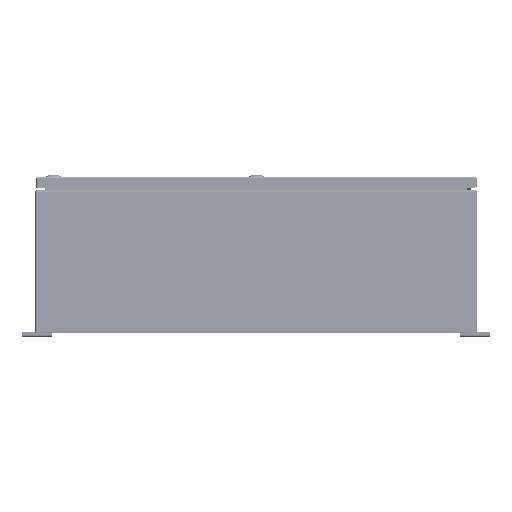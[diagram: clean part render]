
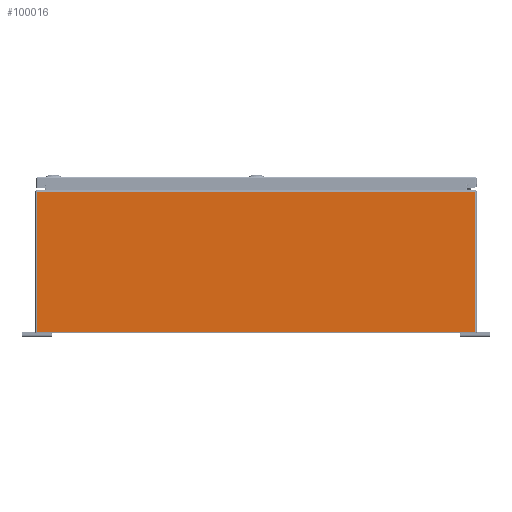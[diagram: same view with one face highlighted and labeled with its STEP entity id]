
A CAD part, left-side view. The second image highlights one B-rep face of the part: STEP entity #100016.
In plain terms, the highlighted planar face has unit normal (-1, 0, 0).
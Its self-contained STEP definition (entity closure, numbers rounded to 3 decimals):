
#6045=PLANE('',#107147);
#8587=LINE('',#141303,#16530);
#8588=LINE('',#141307,#16531);
#8589=LINE('',#141309,#16532);
#8590=LINE('',#141311,#16533);
#8591=LINE('',#141313,#16534);
#8592=LINE('',#141314,#16535);
#16530=VECTOR('',#115979,0.394);
#16531=VECTOR('',#115984,0.394);
#16532=VECTOR('',#115985,0.394);
#16533=VECTOR('',#115986,0.394);
#16534=VECTOR('',#115987,0.394);
#16535=VECTOR('',#115988,0.394);
#26042=FACE_OUTER_BOUND('',#31959,.T.);
#31959=EDGE_LOOP('',(#67772,#67773,#67774,#67775,#67776,#67777));
#42073=VERTEX_POINT('',#141285);
#42080=VERTEX_POINT('',#141302);
#42081=VERTEX_POINT('',#141306);
#42082=VERTEX_POINT('',#141308);
#42083=VERTEX_POINT('',#141310);
#42084=VERTEX_POINT('',#141312);
#52111=EDGE_CURVE('',#42073,#42080,#8587,.T.);
#52113=EDGE_CURVE('',#42081,#42073,#8588,.T.);
#52114=EDGE_CURVE('',#42081,#42082,#8589,.T.);
#52115=EDGE_CURVE('',#42083,#42082,#8590,.T.);
#52116=EDGE_CURVE('',#42084,#42083,#8591,.T.);
#52117=EDGE_CURVE('',#42084,#42080,#8592,.T.);
#67772=ORIENTED_EDGE('',*,*,#52113,.F.);
#67773=ORIENTED_EDGE('',*,*,#52114,.T.);
#67774=ORIENTED_EDGE('',*,*,#52115,.F.);
#67775=ORIENTED_EDGE('',*,*,#52116,.F.);
#67776=ORIENTED_EDGE('',*,*,#52117,.T.);
#67777=ORIENTED_EDGE('',*,*,#52111,.F.);
#100016=ADVANCED_FACE('',(#26042),#6045,.F.);
#107147=AXIS2_PLACEMENT_3D('',#141305,#115982,#115983);
#115979=DIRECTION('',(0.,0.,-1.));
#115982=DIRECTION('center_axis',(1.,0.,0.));
#115983=DIRECTION('ref_axis',(0.,0.,-1.));
#115984=DIRECTION('',(0.,-1.,0.));
#115985=DIRECTION('',(0.,1.,0.));
#115986=DIRECTION('',(0.,-1.,0.));
#115987=DIRECTION('',(0.,0.,1.));
#115988=DIRECTION('',(0.,-1.,0.));
#141285=CARTESIAN_POINT('',(-21.,-18.401,11.901));
#141302=CARTESIAN_POINT('',(-21.,-18.401,0.099));
#141303=CARTESIAN_POINT('',(-21.,-18.401,6.));
#141305=CARTESIAN_POINT('Origin',(-21.,0.,6.));
#141306=CARTESIAN_POINT('',(-21.,-17.626,11.901));
#141307=CARTESIAN_POINT('',(-21.,-9.225,11.901));
#141308=CARTESIAN_POINT('',(-21.,17.626,11.901));
#141309=CARTESIAN_POINT('',(-21.,9.205,11.901));
#141310=CARTESIAN_POINT('',(-21.,18.401,11.901));
#141311=CARTESIAN_POINT('',(-21.,-9.225,11.901));
#141312=CARTESIAN_POINT('',(-21.,18.401,0.099));
#141313=CARTESIAN_POINT('',(-21.,18.401,6.));
#141314=CARTESIAN_POINT('',(-21.,9.25,0.099));
